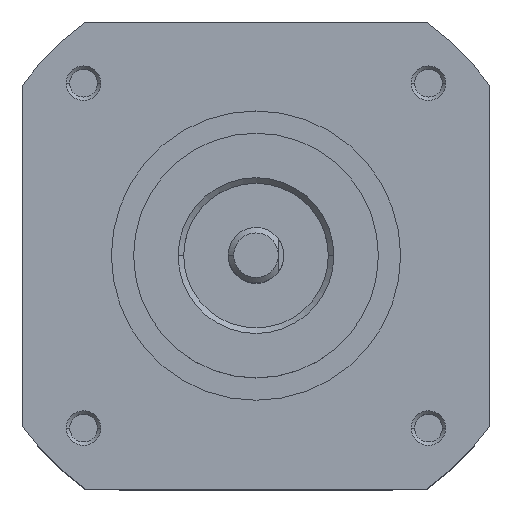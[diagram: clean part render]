
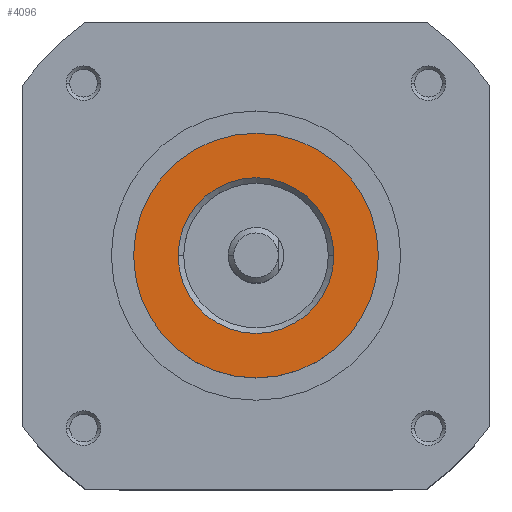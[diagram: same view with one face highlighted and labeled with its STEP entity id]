
A CAD part, top view. The second image highlights one B-rep face of the part: STEP entity #4096.
In plain terms, the highlighted planar face has unit normal (0, 0, 1).
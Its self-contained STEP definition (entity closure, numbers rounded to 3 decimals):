
#21 = EDGE_CURVE ( 'NONE', #6220, #6168, #5007, .T. ) ;
#23 = EDGE_CURVE ( 'NONE', #6100, #6273, #5009, .T. ) ;
#487 = DIRECTION ( 'NONE',  ( 1., 0., 0. ) ) ;
#488 = DIRECTION ( 'NONE',  ( 0., 0., 1. ) ) ;
#490 = PLANE ( 'NONE',  #1099 ) ;
#498 = CARTESIAN_POINT ( 'NONE',  ( 0., 0., 8. ) ) ;
#936 = AXIS2_PLACEMENT_3D ( 'NONE', #1658, #1628, #1627 ) ;
#941 = AXIS2_PLACEMENT_3D ( 'NONE', #1609, #1587, #1586 ) ;
#1099 = AXIS2_PLACEMENT_3D ( 'NONE', #498, #488, #487 ) ;
#1586 = DIRECTION ( 'NONE',  ( 1., 0., 0. ) ) ;
#1587 = DIRECTION ( 'NONE',  ( 0., 0., 1. ) ) ;
#1609 = CARTESIAN_POINT ( 'NONE',  ( 0., 0., 8. ) ) ;
#1627 = DIRECTION ( 'NONE',  ( 1., 0., 0. ) ) ;
#1628 = DIRECTION ( 'NONE',  ( 0., 0., -1. ) ) ;
#1658 = CARTESIAN_POINT ( 'NONE',  ( 0., 0., 8. ) ) ;
#1894 = EDGE_CURVE ( 'NONE', #6273, #6100, #5237, .T. ) ;
#1905 = EDGE_CURVE ( 'NONE', #6168, #6220, #5254, .T. ) ;
#3171 = CARTESIAN_POINT ( 'NONE',  ( -7., 0., 8. ) ) ;
#3225 = CARTESIAN_POINT ( 'NONE',  ( 11., 0., 8. ) ) ;
#3262 = CARTESIAN_POINT ( 'NONE',  ( -11., 0., 8. ) ) ;
#3301 = CARTESIAN_POINT ( 'NONE',  ( 7., 0., 8. ) ) ;
#4096 = ADVANCED_FACE ( 'NONE', ( #4771, #4764 ), #490, .T. ) ;
#4649 = AXIS2_PLACEMENT_3D ( 'NONE', #6448, #6106, #6350 ) ;
#4653 = AXIS2_PLACEMENT_3D ( 'NONE', #6227, #6021, #6290 ) ;
#4764 = FACE_OUTER_BOUND ( 'NONE', #5944, .T. ) ;
#4771 = FACE_BOUND ( 'NONE', #4996, .T. ) ;
#4996 = EDGE_LOOP ( 'NONE', ( #5551, #5550 ) ) ;
#5007 = CIRCLE ( 'NONE', #4649, 11. ) ;
#5009 = CIRCLE ( 'NONE', #4653, 7. ) ;
#5237 = CIRCLE ( 'NONE', #936, 7. ) ;
#5254 = CIRCLE ( 'NONE', #941, 11. ) ;
#5548 = ORIENTED_EDGE ( 'NONE', *, *, #1905, .T. ) ;
#5549 = ORIENTED_EDGE ( 'NONE', *, *, #21, .T. ) ;
#5550 = ORIENTED_EDGE ( 'NONE', *, *, #23, .T. ) ;
#5551 = ORIENTED_EDGE ( 'NONE', *, *, #1894, .T. ) ;
#5944 = EDGE_LOOP ( 'NONE', ( #5549, #5548 ) ) ;
#6021 = DIRECTION ( 'NONE',  ( 0., 0., -1. ) ) ;
#6100 = VERTEX_POINT ( 'NONE', #3171 ) ;
#6106 = DIRECTION ( 'NONE',  ( 0., 0., 1. ) ) ;
#6168 = VERTEX_POINT ( 'NONE', #3225 ) ;
#6220 = VERTEX_POINT ( 'NONE', #3262 ) ;
#6227 = CARTESIAN_POINT ( 'NONE',  ( 0., 0., 8. ) ) ;
#6273 = VERTEX_POINT ( 'NONE', #3301 ) ;
#6290 = DIRECTION ( 'NONE',  ( 1., 0., 0. ) ) ;
#6350 = DIRECTION ( 'NONE',  ( 1., 0., 0. ) ) ;
#6448 = CARTESIAN_POINT ( 'NONE',  ( 0., 0., 8. ) ) ;
